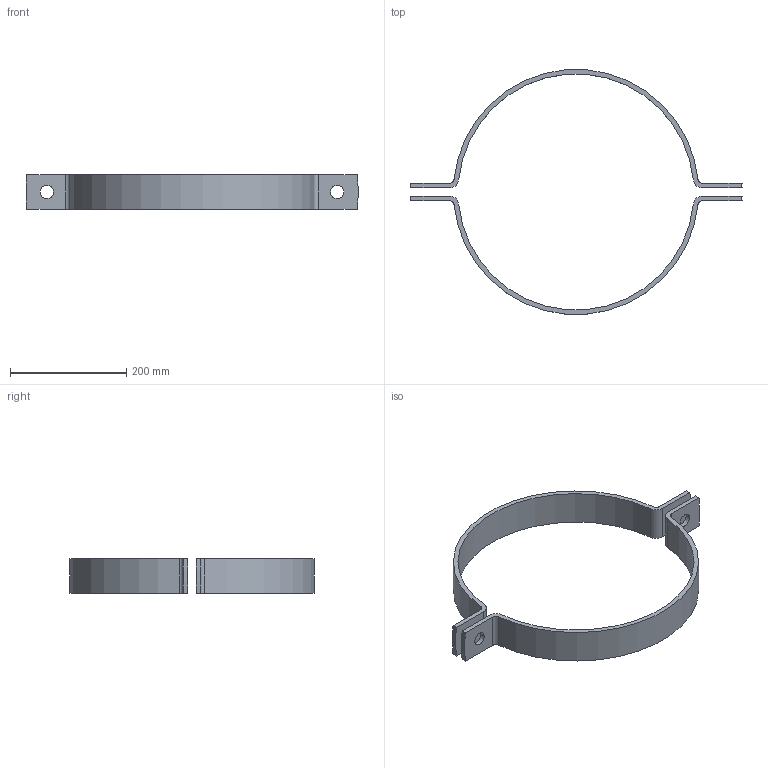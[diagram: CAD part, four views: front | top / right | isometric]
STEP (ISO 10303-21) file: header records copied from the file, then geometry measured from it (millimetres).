
FILE_DESCRIPTION (( 'STEP AP203' ), '1' );
FILE_NAME ('NW400-406,4 (DIN 3567).STEP', '2023-12-08T11:36:45', ( '' ), ( '' ), 'SwSTEP 2.0', 'SolidWorks 2023', '' );
FILE_SCHEMA (( 'CONFIG_CONTROL_DESIGN' ));
Length unit declared in the file: millimetre
Products named in the file (1): NW400-406,4 (DIN 3567)
Bounding box: 571.65 x 420.83 x 60 mm (x, y, z)
Volume: 733125.5 mm3; surface area: 212330.5 mm2
Topology: 2 solids, 2 shells, 36 faces, 96 edges, 64 vertices
Faces by surface type: cylinder 24, plane 12
Entity records: 1239 total; most frequent: DIRECTION 218, CARTESIAN_POINT 197, ORIENTED_EDGE 192, EDGE_CURVE 96, AXIS2_PLACEMENT_3D 85, VERTEX_POINT 64, CIRCLE 48, LINE 48
